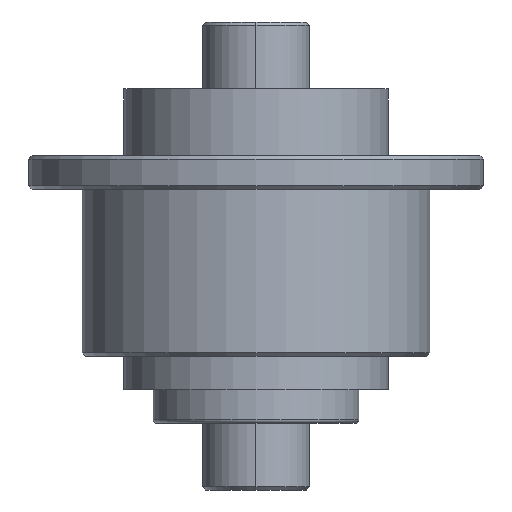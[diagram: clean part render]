
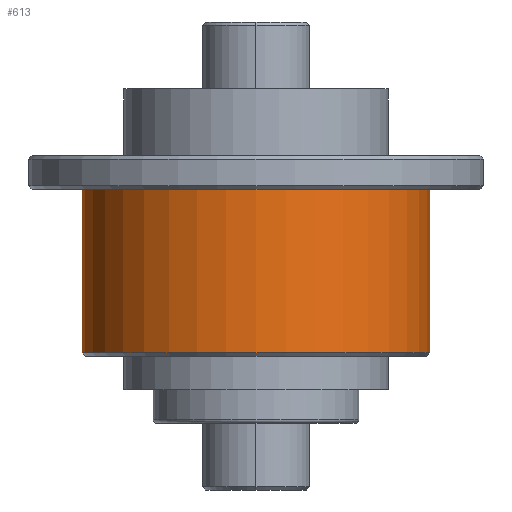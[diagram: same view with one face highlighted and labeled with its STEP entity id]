
A CAD part, left-side view. The second image highlights one B-rep face of the part: STEP entity #613.
In plain terms, the highlighted cylindrical face has radius 26 mm (diameter 52 mm), a partial arc.
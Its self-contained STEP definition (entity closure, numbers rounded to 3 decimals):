
#36 = CARTESIAN_POINT ( 'NONE',  ( 0., 0., -5. ) ) ;
#63 = CARTESIAN_POINT ( 'NONE',  ( 0., -26., -29.5 ) ) ;
#274 = DIRECTION ( 'NONE',  ( 0., -1., 0. ) ) ;
#320 = VECTOR ( 'NONE', #635, 1000. ) ;
#372 = EDGE_CURVE ( 'NONE', #534, #1056, #2291, .T. ) ;
#444 = ORIENTED_EDGE ( 'NONE', *, *, #1176, .T. ) ;
#498 = AXIS2_PLACEMENT_3D ( 'NONE', #2729, #1256, #2979 ) ;
#534 = VERTEX_POINT ( 'NONE', #1764 ) ;
#613 = ADVANCED_FACE ( 'NONE', ( #1108 ), #2840, .T. ) ;
#635 = DIRECTION ( 'NONE',  ( 0., 0., 1. ) ) ;
#879 = ORIENTED_EDGE ( 'NONE', *, *, #2929, .T. ) ;
#1056 = VERTEX_POINT ( 'NONE', #1675 ) ;
#1108 = FACE_OUTER_BOUND ( 'NONE', #1923, .T. ) ;
#1176 = EDGE_CURVE ( 'NONE', #2544, #2833, #2259, .T. ) ;
#1184 = CARTESIAN_POINT ( 'NONE',  ( 0., -26., -5. ) ) ;
#1256 = DIRECTION ( 'NONE',  ( 0., 0., 1. ) ) ;
#1516 = CARTESIAN_POINT ( 'NONE',  ( 0., 26., -103.539 ) ) ;
#1675 = CARTESIAN_POINT ( 'NONE',  ( 0., 26., -5. ) ) ;
#1723 = DIRECTION ( 'NONE',  ( 0., 0., -1. ) ) ;
#1764 = CARTESIAN_POINT ( 'NONE',  ( 0., 26., -29.5 ) ) ;
#1792 = CARTESIAN_POINT ( 'NONE',  ( 0., 0., -103.539 ) ) ;
#1825 = AXIS2_PLACEMENT_3D ( 'NONE', #1792, #2511, #2043 ) ;
#1923 = EDGE_LOOP ( 'NONE', ( #2648, #879, #444, #3087 ) ) ;
#2007 = DIRECTION ( 'NONE',  ( 0., 0., 1. ) ) ;
#2043 = DIRECTION ( 'NONE',  ( 0., -1., 0. ) ) ;
#2081 = CARTESIAN_POINT ( 'NONE',  ( 0., -26., -103.539 ) ) ;
#2188 = CIRCLE ( 'NONE', #498, 26. ) ;
#2259 = LINE ( 'NONE', #2081, #320 ) ;
#2291 = LINE ( 'NONE', #1516, #2878 ) ;
#2482 = EDGE_CURVE ( 'NONE', #2833, #1056, #2521, .T. ) ;
#2511 = DIRECTION ( 'NONE',  ( 0., 0., 1. ) ) ;
#2521 = CIRCLE ( 'NONE', #2646, 26. ) ;
#2544 = VERTEX_POINT ( 'NONE', #63 ) ;
#2646 = AXIS2_PLACEMENT_3D ( 'NONE', #36, #1723, #274 ) ;
#2648 = ORIENTED_EDGE ( 'NONE', *, *, #372, .F. ) ;
#2729 = CARTESIAN_POINT ( 'NONE',  ( 0., 0., -29.5 ) ) ;
#2833 = VERTEX_POINT ( 'NONE', #1184 ) ;
#2840 = CYLINDRICAL_SURFACE ( 'NONE', #1825, 26. ) ;
#2878 = VECTOR ( 'NONE', #2007, 1000. ) ;
#2929 = EDGE_CURVE ( 'NONE', #534, #2544, #2188, .T. ) ;
#2979 = DIRECTION ( 'NONE',  ( 0., -1., 0. ) ) ;
#3087 = ORIENTED_EDGE ( 'NONE', *, *, #2482, .T. ) ;
